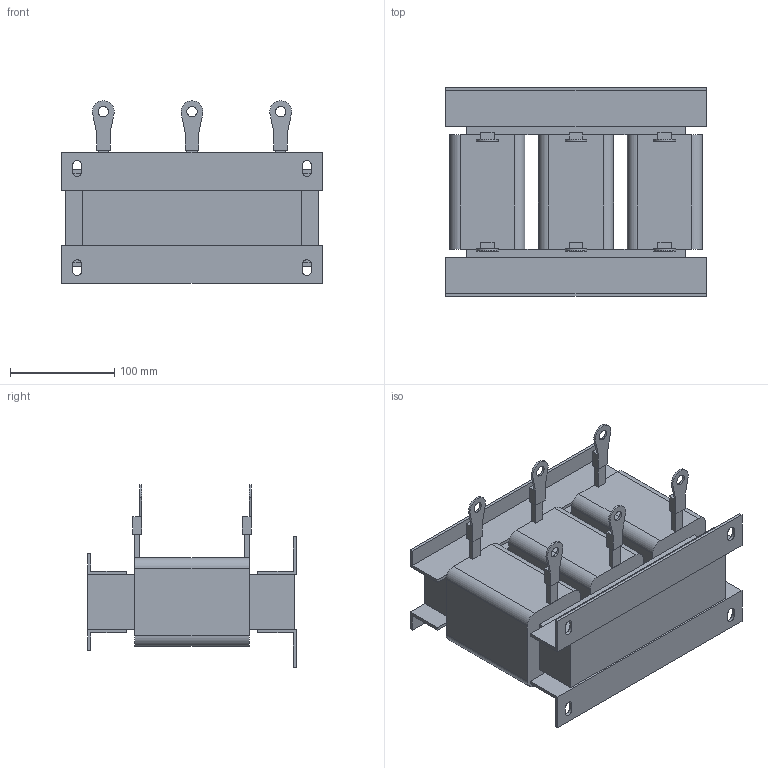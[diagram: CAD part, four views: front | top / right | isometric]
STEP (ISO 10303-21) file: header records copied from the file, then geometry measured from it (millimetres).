
FILE_DESCRIPTION(/* description */ (''),/* implementation_level */ '2;1');
FILE_NAME(/* name */ 'ACO-C-0086-T6.stp',/* time_stamp */ '2025-01-15T07:48:56+04:00',/* author */ ('Александр (огранич)'),/* organization */ (''),/* preprocessor_version */ 'ST-DEVELOPER v19.2',/* originating_system */ 'Autodesk Inventor 2024',/* authorisation */ '');
FILE_SCHEMA (('AUTOMOTIVE_DESIGN { 1 0 10303 214 3 1 1 }'));
Length unit declared in the file: millimetre
Products named in the file (1): ACO-0015-T4-4
Bounding box: 250 x 200 x 174.96 mm (x, y, z)
Volume: 3178589.6 mm3; surface area: 304325.9 mm2
Topology: 15 solids, 15 shells, 196 faces, 478 edges, 308 vertices
Faces by surface type: plane 164, cylinder 32
Full cylindrical faces by diameter (mm): 10 x6
Entity records: 5727 total; most frequent: CARTESIAN_POINT 983, ORIENTED_EDGE 956, DIRECTION 936, EDGE_CURVE 478, LINE 414, VECTOR 414, VERTEX_POINT 308, AXIS2_PLACEMENT_3D 261
